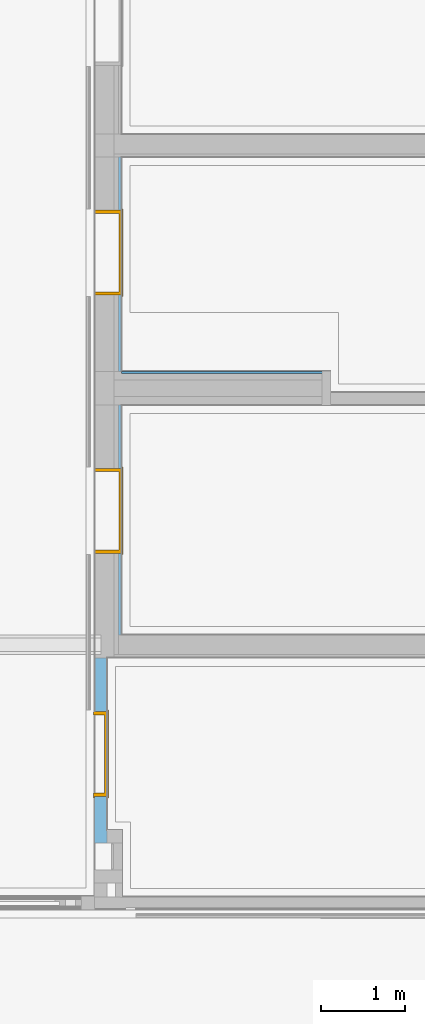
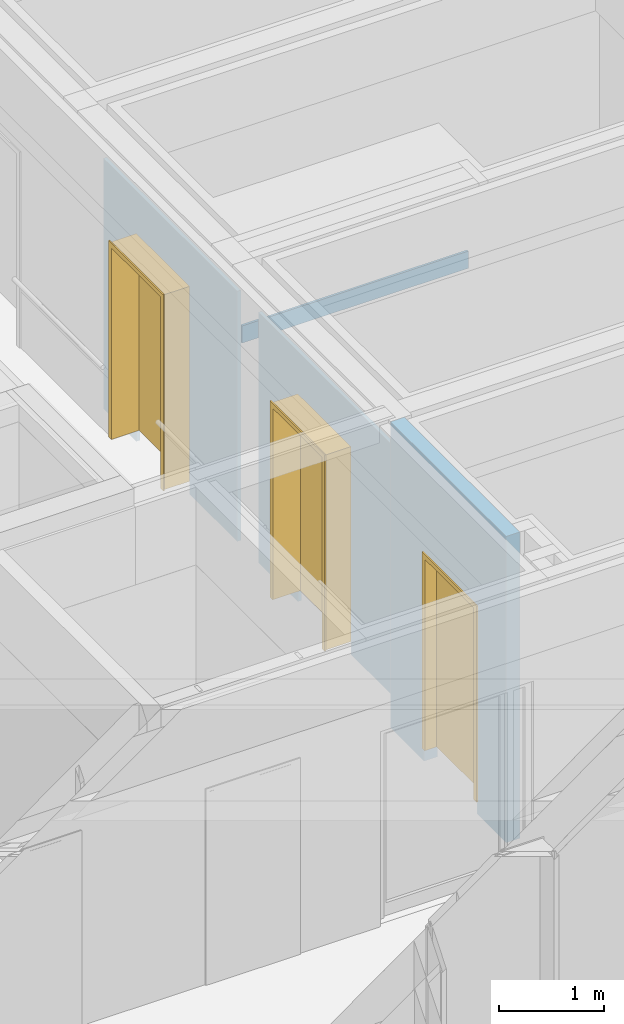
# One storey, part 68 of 222: 3 doors, 1 wall, 3 openings, plus 3 elements that do not belong to this part.
"""IFC4 building model written with IfcOpenShell, lengths in metres."""

from ifc_helpers import new_model, entity, si_unit, converted_unit, derived_unit, frame, frame_2d, origin, origin_with_axes, place, context, subcontext, project, spatial, polyline, rectangle, outline, extrude, faceted_brep, source, transform, mapped, material, type_object, element, fill, save


model = new_model("IFC4")

# Units and contexts
model_context = context("Model", 3, precision=1e-05, world=origin())
body_context = subcontext(model_context, "Body", "Model", "MODEL_VIEW")
ifc_project = project(units=[si_unit("LENGTHUNIT", "METRE"), si_unit("AREAUNIT", "SQUARE_METRE"), si_unit("VOLUMEUNIT", "CUBIC_METRE"), si_unit("MASSUNIT", "GRAM", prefix="KILO"), converted_unit("PLANEANGLEUNIT", "DEGREE", entity("IfcPlaneAngleMeasure", 0.0174532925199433), si_unit("PLANEANGLEUNIT", "RADIAN"), dimensions=[0, 0, 0, 0, 0, 0, 0]), derived_unit("THERMALTRANSMITTANCEUNIT", [(si_unit("POWERUNIT", "WATT"), 1), (si_unit("THERMODYNAMICTEMPERATUREUNIT", "KELVIN"), -1), (si_unit("LENGTHUNIT", "METRE"), -2)]), derived_unit("VOLUMETRICFLOWRATEUNIT", [(si_unit("LENGTHUNIT", "METRE"), 3), (converted_unit("TIMEUNIT", "hour", entity("IfcTimeMeasure", 3600.0), si_unit("TIMEUNIT", "SECOND"), dimensions=[0, 0, 1, 0, 0, 0, 0]), -1), (si_unit("LENGTHUNIT", "METRE"), -1)])], contexts=[model_context])

# Site, building, storey
site_placement = place(None, origin())
site = spatial("IfcSite", under=ifc_project, at=site_placement, Name="Psychiatrie Neubau Wunstorf", CompositionType="ELEMENT")
building_placement = place(site_placement, origin())
building = spatial("IfcBuilding", under=site, at=building_placement, Name="Neubau H2 Stationsgebäude", CompositionType="ELEMENT")
storey_placement = place(building_placement, frame((0.0, 0.0, 3.6)))
storey = spatial("IfcBuildingStorey", under=building, at=storey_placement, Name="H2 Ebene +1", CompositionType="ELEMENT", Elevation=3.6)

# Wall, opening, door
ifc_material_1 = material(Name="WI-LB")
wall_1_placement = place(storey_placement, frame((10.0675000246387, 7.41499989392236, 0.0), z_axis=(0.0, 0.0, 1.0), x_axis=(0.0, 1.0, 0.0)))
wall_1 = element("IfcWall", 1, at=wall_1_placement, inside=storey, material=ifc_material_1, context=body_context, shape_type="SweptSolid", body=[
    extrude(rectangle(XDim=2.1955000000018, YDim=0.15, at=frame_2d((1.0977500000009, 0.075), x_axis=(1.0, 0.0))), origin_with_axes(), (0.0, 0.0, 1.0), 3.55),
])
opening_1_placement = place(wall_1_placement, frame((1.56000000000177, 0.15, 0.0), z_axis=(0.0, -1.0, 0.0), x_axis=(0.0, 0.0, 1.0)))
opening_1 = element("IfcOpeningElement", 2, at=opening_1_placement, cuts=wall_1, Name="Türöffnung", ObjectType="Opening", context=body_context, shape_type="SweptSolid", body=[
    extrude(outline(polyline([(2.41, 1.01), (2.41, 0.0), (0.0, 0.0), (0.0, 1.01), (2.41, 1.01)])), origin_with_axes(), (0.0, 0.0, 1.0), 0.15),
])
ifc_material_2 = material(Name="TI-1F-UZ-ZK")
door_type_1 = type_object("IfcDoorType", Name="SMT", OperationType="SINGLE_SWING_RIGHT", ParameterTakesPrecedence=False, PredefinedType="DOOR")
shared_shape_1 = source(origin_with_axes(), body_context, "Body", "Brep", [
    faceted_brep([(1.07499999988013, 0.0249999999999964, 0.0), (1.07499999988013, 0.124999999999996, 0.0), (1.0349999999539, 0.124999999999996, 0.0), (1.0349999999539, 0.0249999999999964, 0.0), (1.07499999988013, 0.124999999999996, 3.55), (1.07499999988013, 0.0249999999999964, 3.55), (1.0349999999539, 0.0249999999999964, 3.55), (1.0349999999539, 0.124999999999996, 3.55)], [[[0, 1, 2, 3]], [[4, 5, 6, 7]], [[1, 0, 5, 4]], [[2, 1, 4, 7]], [[3, 2, 7, 6]], [[0, 3, 6, 5]]], orient=[[False], [False], [False], [False], [False], [False]]),
    faceted_brep([(-0.0249999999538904, 0.0249999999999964, 0.0), (-0.0249999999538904, 0.124999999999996, 0.0), (-0.0649999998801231, 0.124999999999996, 0.0), (-0.0649999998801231, 0.0249999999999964, 0.0), (-0.0249999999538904, 0.124999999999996, 3.55), (-0.0249999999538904, 0.0249999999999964, 3.55), (-0.0649999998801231, 0.0249999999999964, 3.55), (-0.0649999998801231, 0.124999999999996, 3.55)], [[[0, 1, 2, 3]], [[4, 5, 6, 7]], [[1, 0, 5, 4]], [[2, 1, 4, 7]], [[3, 2, 7, 6]], [[0, 3, 6, 5]]], orient=[[False], [False], [False], [False], [False], [False]]),
    faceted_brep([(1.0349999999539, 0.0249999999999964, 2.435), (1.0349999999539, 0.124999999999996, 2.435), (-0.0249999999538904, 0.124999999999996, 2.435), (-0.0249999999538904, 0.0249999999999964, 2.435), (1.0349999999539, 0.124999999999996, 2.475), (1.0349999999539, 0.0249999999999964, 2.475), (-0.0249999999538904, 0.0249999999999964, 2.475), (-0.0249999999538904, 0.124999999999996, 2.475)], [[[0, 1, 2, 3]], [[4, 5, 6, 7]], [[1, 0, 5, 4]], [[2, 1, 4, 7]], [[3, 2, 7, 6]], [[0, 3, 6, 5]]], orient=[[False], [False], [False], [False], [False], [False]]),
])
shared_shape_2 = source(origin_with_axes(), body_context, "Body", "Brep", [
    faceted_brep([(0.0, -0.0150000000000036, 2.41), (0.0400000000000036, -0.0150000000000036, 2.41), (0.0400000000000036, -0.0150000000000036, 0.15), (0.0, -0.0150000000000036, 0.15), (0.0, 0.164999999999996, 0.15), (0.0400000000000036, 0.164999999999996, 0.15), (0.0400000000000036, 0.164999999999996, 2.41), (0.0, 0.164999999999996, 2.41)], [[[0, 1, 2, 3]], [[4, 5, 6, 7]], [[3, 4, 7, 0]], [[2, 5, 4, 3]], [[1, 6, 5, 2]], [[0, 7, 6, 1]]], orient=[[False], [False], [False], [False], [False], [False]]),
    faceted_brep([(0.0, -0.0150000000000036, 2.425), (0.0, -0.0150000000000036, 0.15), (-0.0149999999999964, -0.0150000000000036, 0.15), (-0.0149999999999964, -0.0150000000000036, 2.425), (0.0, 0.0, 0.15), (0.0, 0.0, 2.425), (-0.0149999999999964, 0.0, 2.425), (-0.0149999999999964, 0.0, 0.15)], [[[0, 1, 2, 3]], [[4, 5, 6, 7]], [[1, 0, 5, 4]], [[2, 1, 4, 7]], [[3, 2, 7, 6]], [[0, 3, 6, 5]]], orient=[[False], [False], [False], [False], [False], [False]]),
    faceted_brep([(0.0, 0.149999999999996, 2.425), (0.0, 0.149999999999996, 0.15), (-0.0149999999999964, 0.149999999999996, 0.15), (-0.0149999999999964, 0.149999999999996, 2.425), (0.0, 0.164999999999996, 0.15), (0.0, 0.164999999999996, 2.425), (-0.0149999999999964, 0.164999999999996, 2.425), (-0.0149999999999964, 0.164999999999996, 0.15)], [[[0, 1, 2, 3]], [[4, 5, 6, 7]], [[1, 0, 5, 4]], [[2, 1, 4, 7]], [[3, 2, 7, 6]], [[0, 3, 6, 5]]], orient=[[False], [False], [False], [False], [False], [False]]),
    faceted_brep([(0.970000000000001, -0.0150000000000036, 2.41), (1.01, -0.0150000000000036, 2.41), (1.01, -0.0150000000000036, 0.15), (0.970000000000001, -0.0150000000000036, 0.15), (0.970000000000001, 0.164999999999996, 0.15), (1.01, 0.164999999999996, 0.15), (1.01, 0.164999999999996, 2.41), (0.970000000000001, 0.164999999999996, 2.41)], [[[0, 1, 2, 3]], [[4, 5, 6, 7]], [[3, 4, 7, 0]], [[2, 5, 4, 3]], [[1, 6, 5, 2]], [[0, 7, 6, 1]]], orient=[[False], [False], [False], [False], [False], [False]]),
    faceted_brep([(1.01, -0.0150000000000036, 2.425), (1.025, -0.0150000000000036, 2.425), (1.025, -0.0150000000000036, 0.15), (1.01, -0.0150000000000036, 0.15), (1.01, 0.0, 0.15), (1.025, 0.0, 0.15), (1.025, 0.0, 2.425), (1.01, 0.0, 2.425)], [[[0, 1, 2, 3]], [[4, 5, 6, 7]], [[3, 4, 7, 0]], [[2, 5, 4, 3]], [[1, 6, 5, 2]], [[0, 7, 6, 1]]], orient=[[False], [False], [False], [False], [False], [False]]),
    faceted_brep([(1.01, 0.149999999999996, 2.425), (1.025, 0.149999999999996, 2.425), (1.025, 0.149999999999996, 0.15), (1.01, 0.149999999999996, 0.15), (1.01, 0.164999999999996, 0.15), (1.025, 0.164999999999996, 0.15), (1.025, 0.164999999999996, 2.425), (1.01, 0.164999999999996, 2.425)], [[[0, 1, 2, 3]], [[4, 5, 6, 7]], [[3, 4, 7, 0]], [[2, 5, 4, 3]], [[1, 6, 5, 2]], [[0, 7, 6, 1]]], orient=[[False], [False], [False], [False], [False], [False]]),
    faceted_brep([(0.0400000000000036, -0.0150000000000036, 2.41), (0.970000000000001, -0.0150000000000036, 2.41), (0.970000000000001, -0.0150000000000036, 2.37), (0.0400000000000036, -0.0150000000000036, 2.37), (0.0400000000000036, 0.164999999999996, 2.37), (0.970000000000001, 0.164999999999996, 2.37), (0.970000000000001, 0.164999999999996, 2.41), (0.0400000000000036, 0.164999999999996, 2.41)], [[[0, 1, 2, 3]], [[4, 5, 6, 7]], [[3, 4, 7, 0]], [[2, 5, 4, 3]], [[1, 6, 5, 2]], [[0, 7, 6, 1]]], orient=[[False], [False], [False], [False], [False], [False]]),
    faceted_brep([(0.0, -0.0150000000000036, 2.425), (1.01, -0.0150000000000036, 2.425), (1.01, -0.0150000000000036, 2.41), (0.0, -0.0150000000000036, 2.41), (0.0, 0.0, 2.41), (1.01, 0.0, 2.41), (1.01, 0.0, 2.425), (0.0, 0.0, 2.425)], [[[0, 1, 2, 3]], [[4, 5, 6, 7]], [[3, 4, 7, 0]], [[2, 5, 4, 3]], [[1, 6, 5, 2]], [[0, 7, 6, 1]]], orient=[[False], [False], [False], [False], [False], [False]]),
    faceted_brep([(0.0, 0.149999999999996, 2.425), (1.01, 0.149999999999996, 2.425), (1.01, 0.149999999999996, 2.41), (0.0, 0.149999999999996, 2.41), (0.0, 0.164999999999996, 2.41), (1.01, 0.164999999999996, 2.41), (1.01, 0.164999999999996, 2.425), (0.0, 0.164999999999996, 2.425)], [[[0, 1, 2, 3]], [[4, 5, 6, 7]], [[3, 4, 7, 0]], [[2, 5, 4, 3]], [[1, 6, 5, 2]], [[0, 7, 6, 1]]], orient=[[False], [False], [False], [False], [False], [False]]),
    faceted_brep([(0.0250000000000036, 0.115999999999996, 2.385), (0.985000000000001, 0.115999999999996, 2.385), (0.985000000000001, 0.115999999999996, 0.15), (0.0250000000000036, 0.115999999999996, 0.15), (0.0250000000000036, 0.165999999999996, 0.15), (0.985000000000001, 0.165999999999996, 0.15), (0.985000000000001, 0.165999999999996, 2.385), (0.0250000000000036, 0.165999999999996, 2.385)], [[[0, 1, 2, 3]], [[4, 5, 6, 7]], [[3, 4, 7, 0]], [[2, 5, 4, 3]], [[1, 6, 5, 2]], [[0, 7, 6, 1]]], orient=[[False], [False], [False], [False], [False], [False]]),
])
door_1_placement = place(opening_1_placement, frame((0.0, 0.0, 0.0), z_axis=(1.0, 0.0, 0.0), x_axis=(0.0, 1.0, 0.0)))
door_1 = element("IfcDoor", 3, at=door_1_placement, inside=storey, type_object=door_type_1, material=ifc_material_2, Name="SMT", OverallHeight=2.41, OverallWidth=1.01, context=body_context, shape_type="MappedRepresentation", body=[
    mapped(shared_shape_1, transform((0.0, 0.0, 0.0), x_axis=(1.0, 0.0, 0.0), y_axis=(0.0, 1.0, 0.0), z_axis=(0.0, 0.0, 1.0), scale=1.0)),
    mapped(shared_shape_2, transform((0.0, 0.0, 0.0), x_axis=(1.0, 0.0, 0.0), y_axis=(0.0, 1.0, 0.0), z_axis=(0.0, 0.0, 1.0), scale=1.0)),
])
fill(opening_1, door_1)

ifc_material_3 = material(Name="WI-LB")
wall_2_placement = place(storey_placement, frame((10.2390000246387, 9.88249989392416, 0.0), z_axis=(0.0, 0.0, 1.0), x_axis=(0.0, 1.0, 0.0)))
wall_2 = element("IfcWall", 4, at=wall_2_placement, inside=storey, material=ifc_material_3, context=body_context, shape_type="SweptSolid", body=[
    extrude(rectangle(XDim=2.72850010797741, YDim=0.0395, at=frame_2d((1.36425005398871, 0.01975), x_axis=(1.0, 0.0))), origin_with_axes(), (0.0, 0.0, 1.0), 2.9),
])
opening_2_placement = place(wall_2_placement, frame((1.97850010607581, 0.0395, 0.0), z_axis=(0.0, -1.0, 0.0), x_axis=(0.0, 0.0, 1.0)))
opening_2 = element("IfcOpeningElement", 5, at=opening_2_placement, cuts=wall_2, Name="Türöffnung", ObjectType="Opening", context=body_context, shape_type="SweptSolid", body=[
    extrude(outline(polyline([(2.41, 1.01), (2.41, 0.0), (0.0, 0.0), (0.0, 1.01), (2.41, 1.01)])), origin_with_axes(), (0.0, 0.0, 1.0), 0.0395),
])
ifc_material_4 = material(Name="TI-1F-UZ-ZK")
door_type_2 = type_object("IfcDoorType", Name="SMT", OperationType="SINGLE_SWING_RIGHT", ParameterTakesPrecedence=False, PredefinedType="DOOR")
shared_shape_3 = source(origin_with_axes(), body_context, "Body", "Brep", [
    faceted_brep([(0.0, -0.0150000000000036, 2.41), (0.0400000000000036, -0.0150000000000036, 2.41), (0.0400000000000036, -0.0150000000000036, 0.15), (0.0, -0.0150000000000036, 0.15), (0.0, 0.336499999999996, 0.15), (0.0400000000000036, 0.336499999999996, 0.15), (0.0400000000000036, 0.336499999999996, 2.41), (0.0, 0.336499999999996, 2.41)], [[[0, 1, 2, 3]], [[4, 5, 6, 7]], [[3, 4, 7, 0]], [[2, 5, 4, 3]], [[1, 6, 5, 2]], [[0, 7, 6, 1]]], orient=[[False], [False], [False], [False], [False], [False]]),
    faceted_brep([(0.0, -0.0150000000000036, 2.425), (0.0, -0.0150000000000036, 0.15), (-0.0149999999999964, -0.0150000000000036, 0.15), (-0.0149999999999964, -0.0150000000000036, 2.425), (0.0, 0.0, 0.15), (0.0, 0.0, 2.425), (-0.0149999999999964, 0.0, 2.425), (-0.0149999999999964, 0.0, 0.15)], [[[0, 1, 2, 3]], [[4, 5, 6, 7]], [[1, 0, 5, 4]], [[2, 1, 4, 7]], [[3, 2, 7, 6]], [[0, 3, 6, 5]]], orient=[[False], [False], [False], [False], [False], [False]]),
    faceted_brep([(0.0, 0.321499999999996, 2.425), (0.0, 0.321499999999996, 0.15), (-0.0149999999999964, 0.321499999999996, 0.15), (-0.0149999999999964, 0.321499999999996, 2.425), (0.0, 0.336499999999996, 0.15), (0.0, 0.336499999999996, 2.425), (-0.0149999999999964, 0.336499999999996, 2.425), (-0.0149999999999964, 0.336499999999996, 0.15)], [[[0, 1, 2, 3]], [[4, 5, 6, 7]], [[1, 0, 5, 4]], [[2, 1, 4, 7]], [[3, 2, 7, 6]], [[0, 3, 6, 5]]], orient=[[False], [False], [False], [False], [False], [False]]),
    faceted_brep([(0.970000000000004, -0.0150000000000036, 2.41), (1.01, -0.0150000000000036, 2.41), (1.01, -0.0150000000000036, 0.15), (0.970000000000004, -0.0150000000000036, 0.15), (0.970000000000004, 0.336499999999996, 0.15), (1.01, 0.336499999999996, 0.15), (1.01, 0.336499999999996, 2.41), (0.970000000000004, 0.336499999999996, 2.41)], [[[0, 1, 2, 3]], [[4, 5, 6, 7]], [[3, 4, 7, 0]], [[2, 5, 4, 3]], [[1, 6, 5, 2]], [[0, 7, 6, 1]]], orient=[[False], [False], [False], [False], [False], [False]]),
    faceted_brep([(1.01, -0.0150000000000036, 2.425), (1.025, -0.0150000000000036, 2.425), (1.025, -0.0150000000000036, 0.15), (1.01, -0.0150000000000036, 0.15), (1.01, 0.0, 0.15), (1.025, 0.0, 0.15), (1.025, 0.0, 2.425), (1.01, 0.0, 2.425)], [[[0, 1, 2, 3]], [[4, 5, 6, 7]], [[3, 4, 7, 0]], [[2, 5, 4, 3]], [[1, 6, 5, 2]], [[0, 7, 6, 1]]], orient=[[False], [False], [False], [False], [False], [False]]),
    faceted_brep([(1.01, 0.321499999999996, 2.425), (1.025, 0.321499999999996, 2.425), (1.025, 0.321499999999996, 0.15), (1.01, 0.321499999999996, 0.15), (1.01, 0.336499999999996, 0.15), (1.025, 0.336499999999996, 0.15), (1.025, 0.336499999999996, 2.425), (1.01, 0.336499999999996, 2.425)], [[[0, 1, 2, 3]], [[4, 5, 6, 7]], [[3, 4, 7, 0]], [[2, 5, 4, 3]], [[1, 6, 5, 2]], [[0, 7, 6, 1]]], orient=[[False], [False], [False], [False], [False], [False]]),
    faceted_brep([(0.0400000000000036, -0.0150000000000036, 2.41), (0.970000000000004, -0.0150000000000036, 2.41), (0.970000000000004, -0.0150000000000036, 2.37), (0.0400000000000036, -0.0150000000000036, 2.37), (0.0400000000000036, 0.336499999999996, 2.37), (0.970000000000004, 0.336499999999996, 2.37), (0.970000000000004, 0.336499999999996, 2.41), (0.0400000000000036, 0.336499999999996, 2.41)], [[[0, 1, 2, 3]], [[4, 5, 6, 7]], [[3, 4, 7, 0]], [[2, 5, 4, 3]], [[1, 6, 5, 2]], [[0, 7, 6, 1]]], orient=[[False], [False], [False], [False], [False], [False]]),
    faceted_brep([(0.0, -0.0150000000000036, 2.425), (1.01, -0.0150000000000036, 2.425), (1.01, -0.0150000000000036, 2.41), (0.0, -0.0150000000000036, 2.41), (0.0, 0.0, 2.41), (1.01, 0.0, 2.41), (1.01, 0.0, 2.425), (0.0, 0.0, 2.425)], [[[0, 1, 2, 3]], [[4, 5, 6, 7]], [[3, 4, 7, 0]], [[2, 5, 4, 3]], [[1, 6, 5, 2]], [[0, 7, 6, 1]]], orient=[[False], [False], [False], [False], [False], [False]]),
    faceted_brep([(0.0, 0.321499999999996, 2.425), (1.01, 0.321499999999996, 2.425), (1.01, 0.321499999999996, 2.41), (0.0, 0.321499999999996, 2.41), (0.0, 0.336499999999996, 2.41), (1.01, 0.336499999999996, 2.41), (1.01, 0.336499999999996, 2.425), (0.0, 0.336499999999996, 2.425)], [[[0, 1, 2, 3]], [[4, 5, 6, 7]], [[3, 4, 7, 0]], [[2, 5, 4, 3]], [[1, 6, 5, 2]], [[0, 7, 6, 1]]], orient=[[False], [False], [False], [False], [False], [False]]),
    faceted_brep([(0.0250000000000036, 0.287499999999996, 2.385), (0.985000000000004, 0.287499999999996, 2.385), (0.985000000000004, 0.287499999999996, 0.15), (0.0250000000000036, 0.287499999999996, 0.15), (0.0250000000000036, 0.337499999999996, 0.15), (0.985000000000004, 0.337499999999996, 0.15), (0.985000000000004, 0.337499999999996, 2.385), (0.0250000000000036, 0.337499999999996, 2.385)], [[[0, 1, 2, 3]], [[4, 5, 6, 7]], [[3, 4, 7, 0]], [[2, 5, 4, 3]], [[1, 6, 5, 2]], [[0, 7, 6, 1]]], orient=[[False], [False], [False], [False], [False], [False]]),
])
door_2_placement = place(opening_2_placement, frame((0.0, 0.0, -0.282), z_axis=(1.0, 0.0, 0.0), x_axis=(0.0, 1.0, 0.0)))
door_2 = element("IfcDoor", 6, at=door_2_placement, inside=storey, type_object=door_type_2, material=ifc_material_4, Name="SMT", OverallHeight=2.41, OverallWidth=1.01, context=body_context, shape_type="MappedRepresentation", body=[
    mapped(shared_shape_3, transform((0.0, 0.0, 0.0), x_axis=(1.0, 0.0, 0.0), y_axis=(0.0, 1.0, 0.0), z_axis=(0.0, 0.0, 1.0), scale=1.0)),
])
fill(opening_2, door_2)

# Wall
wall_3_placement = place(storey_placement, frame((10.2390000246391, 12.986, 2.3)))
element("IfcWall", 7, at=wall_3_placement, inside=storey, Name="WV 1.1", context=body_context, shape_type="Brep", body=[
    faceted_brep([(2.48, 0.0, 0.0), (2.48, 0.025, 0.0), (0.0, 0.025, 0.0), (0.0, 0.0, 0.0), (2.48, 0.025, 0.2), (2.48, 0.0, 0.2), (0.0, 0.0, 0.2), (0.0, 0.025, 0.2)], [[[0, 1, 2, 3]], [[4, 5, 6, 7]], [[1, 0, 5, 4]], [[2, 1, 4, 7]], [[3, 2, 7, 6]], [[0, 3, 6, 5]]], orient=[[False], [False], [False], [False], [False], [False]]),
])

# Wall, opening, door
ifc_material_5 = material(Name="WI-LB")
wall_4_placement = place(storey_placement, frame((10.2390000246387, 13.0110000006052, 0.0), z_axis=(0.0, 0.0, 1.0), x_axis=(0.0, 1.0, 0.0)))
wall_4 = element("IfcWall", 8, at=wall_4_placement, inside=storey, material=ifc_material_5, context=body_context, shape_type="SweptSolid", body=[
    extrude(rectangle(XDim=2.54249999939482, YDim=0.0395, at=frame_2d((1.27124999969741, 0.01975), x_axis=(1.0, 0.0))), origin_with_axes(), (0.0, 0.0, 1.0), 2.9),
])
opening_3_placement = place(wall_4_placement, frame((1.91399989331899, 0.0395, 0.0), z_axis=(0.0, -1.0, 0.0), x_axis=(0.0, 0.0, 1.0)))
opening_3 = element("IfcOpeningElement", 9, at=opening_3_placement, cuts=wall_4, Name="Türöffnung", ObjectType="Opening", context=body_context, shape_type="SweptSolid", body=[
    extrude(outline(polyline([(2.41, 1.01), (2.41, 0.0), (0.0, 0.0), (0.0, 1.01), (2.41, 1.01)])), origin_with_axes(), (0.0, 0.0, 1.0), 0.0395),
])
ifc_material_6 = material(Name="TI-1F-UZ-ZK")
door_type_3 = type_object("IfcDoorType", Name="SMT", OperationType="SINGLE_SWING_RIGHT", ParameterTakesPrecedence=False, PredefinedType="DOOR")
shared_shape_4 = source(origin_with_axes(), body_context, "Body", "Brep", [
    faceted_brep([(0.0, -0.0150000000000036, 2.41), (0.0400000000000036, -0.0150000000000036, 2.41), (0.0400000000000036, -0.0150000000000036, 0.15), (0.0, -0.0150000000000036, 0.15), (0.0, 0.336499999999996, 0.15), (0.0400000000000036, 0.336499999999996, 0.15), (0.0400000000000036, 0.336499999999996, 2.41), (0.0, 0.336499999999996, 2.41)], [[[0, 1, 2, 3]], [[4, 5, 6, 7]], [[3, 4, 7, 0]], [[2, 5, 4, 3]], [[1, 6, 5, 2]], [[0, 7, 6, 1]]], orient=[[False], [False], [False], [False], [False], [False]]),
    faceted_brep([(0.0, -0.0150000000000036, 2.425), (0.0, -0.0150000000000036, 0.15), (-0.0149999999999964, -0.0150000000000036, 0.15), (-0.0149999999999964, -0.0150000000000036, 2.425), (0.0, 0.0, 0.15), (0.0, 0.0, 2.425), (-0.0149999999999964, 0.0, 2.425), (-0.0149999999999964, 0.0, 0.15)], [[[0, 1, 2, 3]], [[4, 5, 6, 7]], [[1, 0, 5, 4]], [[2, 1, 4, 7]], [[3, 2, 7, 6]], [[0, 3, 6, 5]]], orient=[[False], [False], [False], [False], [False], [False]]),
    faceted_brep([(0.0, 0.321499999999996, 2.425), (0.0, 0.321499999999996, 0.15), (-0.0149999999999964, 0.321499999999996, 0.15), (-0.0149999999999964, 0.321499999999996, 2.425), (0.0, 0.336499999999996, 0.15), (0.0, 0.336499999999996, 2.425), (-0.0149999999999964, 0.336499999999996, 2.425), (-0.0149999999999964, 0.336499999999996, 0.15)], [[[0, 1, 2, 3]], [[4, 5, 6, 7]], [[1, 0, 5, 4]], [[2, 1, 4, 7]], [[3, 2, 7, 6]], [[0, 3, 6, 5]]], orient=[[False], [False], [False], [False], [False], [False]]),
    faceted_brep([(0.970000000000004, -0.0150000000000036, 2.41), (1.01, -0.0150000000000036, 2.41), (1.01, -0.0150000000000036, 0.15), (0.970000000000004, -0.0150000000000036, 0.15), (0.970000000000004, 0.336499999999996, 0.15), (1.01, 0.336499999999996, 0.15), (1.01, 0.336499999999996, 2.41), (0.970000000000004, 0.336499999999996, 2.41)], [[[0, 1, 2, 3]], [[4, 5, 6, 7]], [[3, 4, 7, 0]], [[2, 5, 4, 3]], [[1, 6, 5, 2]], [[0, 7, 6, 1]]], orient=[[False], [False], [False], [False], [False], [False]]),
    faceted_brep([(1.01, -0.0150000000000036, 2.425), (1.025, -0.0150000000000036, 2.425), (1.025, -0.0150000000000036, 0.15), (1.01, -0.0150000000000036, 0.15), (1.01, 0.0, 0.15), (1.025, 0.0, 0.15), (1.025, 0.0, 2.425), (1.01, 0.0, 2.425)], [[[0, 1, 2, 3]], [[4, 5, 6, 7]], [[3, 4, 7, 0]], [[2, 5, 4, 3]], [[1, 6, 5, 2]], [[0, 7, 6, 1]]], orient=[[False], [False], [False], [False], [False], [False]]),
    faceted_brep([(1.01, 0.321499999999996, 2.425), (1.025, 0.321499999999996, 2.425), (1.025, 0.321499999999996, 0.15), (1.01, 0.321499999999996, 0.15), (1.01, 0.336499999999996, 0.15), (1.025, 0.336499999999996, 0.15), (1.025, 0.336499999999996, 2.425), (1.01, 0.336499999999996, 2.425)], [[[0, 1, 2, 3]], [[4, 5, 6, 7]], [[3, 4, 7, 0]], [[2, 5, 4, 3]], [[1, 6, 5, 2]], [[0, 7, 6, 1]]], orient=[[False], [False], [False], [False], [False], [False]]),
    faceted_brep([(0.0400000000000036, -0.0150000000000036, 2.41), (0.970000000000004, -0.0150000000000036, 2.41), (0.970000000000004, -0.0150000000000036, 2.37), (0.0400000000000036, -0.0150000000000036, 2.37), (0.0400000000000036, 0.336499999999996, 2.37), (0.970000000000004, 0.336499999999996, 2.37), (0.970000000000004, 0.336499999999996, 2.41), (0.0400000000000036, 0.336499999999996, 2.41)], [[[0, 1, 2, 3]], [[4, 5, 6, 7]], [[3, 4, 7, 0]], [[2, 5, 4, 3]], [[1, 6, 5, 2]], [[0, 7, 6, 1]]], orient=[[False], [False], [False], [False], [False], [False]]),
    faceted_brep([(0.0, -0.0150000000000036, 2.425), (1.01, -0.0150000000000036, 2.425), (1.01, -0.0150000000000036, 2.41), (0.0, -0.0150000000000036, 2.41), (0.0, 0.0, 2.41), (1.01, 0.0, 2.41), (1.01, 0.0, 2.425), (0.0, 0.0, 2.425)], [[[0, 1, 2, 3]], [[4, 5, 6, 7]], [[3, 4, 7, 0]], [[2, 5, 4, 3]], [[1, 6, 5, 2]], [[0, 7, 6, 1]]], orient=[[False], [False], [False], [False], [False], [False]]),
    faceted_brep([(0.0, 0.321499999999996, 2.425), (1.01, 0.321499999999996, 2.425), (1.01, 0.321499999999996, 2.41), (0.0, 0.321499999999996, 2.41), (0.0, 0.336499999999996, 2.41), (1.01, 0.336499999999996, 2.41), (1.01, 0.336499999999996, 2.425), (0.0, 0.336499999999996, 2.425)], [[[0, 1, 2, 3]], [[4, 5, 6, 7]], [[3, 4, 7, 0]], [[2, 5, 4, 3]], [[1, 6, 5, 2]], [[0, 7, 6, 1]]], orient=[[False], [False], [False], [False], [False], [False]]),
    faceted_brep([(0.0250000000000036, 0.287499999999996, 2.385), (0.985000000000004, 0.287499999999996, 2.385), (0.985000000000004, 0.287499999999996, 0.15), (0.0250000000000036, 0.287499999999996, 0.15), (0.0250000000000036, 0.337499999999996, 0.15), (0.985000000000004, 0.337499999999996, 0.15), (0.985000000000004, 0.337499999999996, 2.385), (0.0250000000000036, 0.337499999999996, 2.385)], [[[0, 1, 2, 3]], [[4, 5, 6, 7]], [[3, 4, 7, 0]], [[2, 5, 4, 3]], [[1, 6, 5, 2]], [[0, 7, 6, 1]]], orient=[[False], [False], [False], [False], [False], [False]]),
])
door_3_placement = place(opening_3_placement, frame((0.0, 0.0, -0.282), z_axis=(1.0, 0.0, 0.0), x_axis=(0.0, 1.0, 0.0)))
door_3 = element("IfcDoor", 10, at=door_3_placement, inside=storey, type_object=door_type_3, material=ifc_material_6, Name="SMT", OverallHeight=2.41, OverallWidth=1.01, context=body_context, shape_type="MappedRepresentation", body=[
    mapped(shared_shape_4, transform((0.0, 0.0, 0.0), x_axis=(1.0, 0.0, 0.0), y_axis=(0.0, 1.0, 0.0), z_axis=(0.0, 0.0, 1.0), scale=1.0)),
])
fill(opening_3, door_3)

save(model, "model.ifc")
